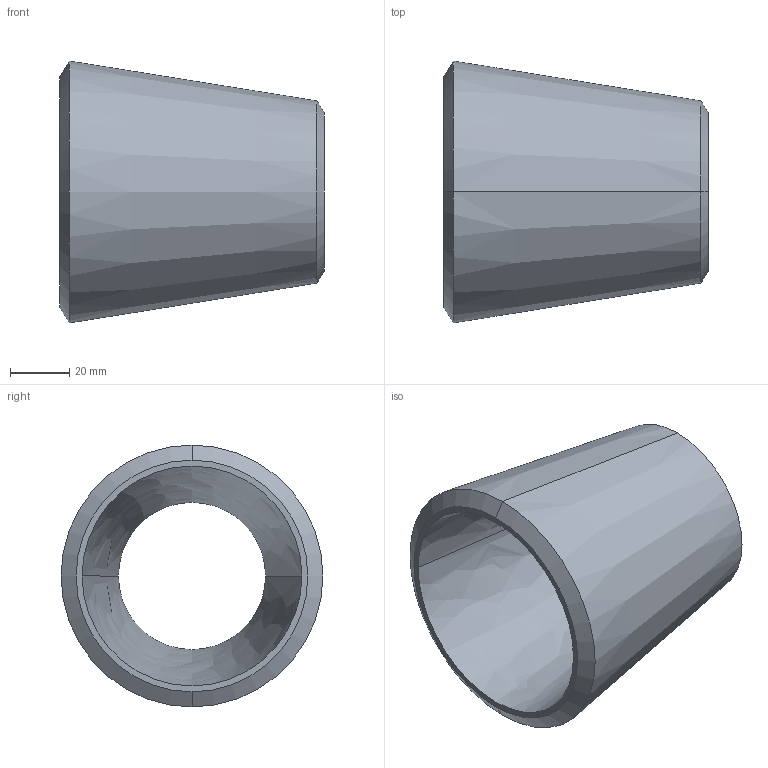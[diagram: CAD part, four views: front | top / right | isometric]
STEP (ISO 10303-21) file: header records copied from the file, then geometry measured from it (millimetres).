
FILE_DESCRIPTION (( 'STEP AP214' ), '1' );
FILE_NAME ('Concentric-reducer(2)_Sch80-80Ax50A.STEP', '2022-06-21T06:18:52', ( 'ASIS User' ), ( 'ASIS User' ), 'SwSTEP 2.0', 'SolidWorks 2022', '' );
FILE_SCHEMA (( 'AUTOMOTIVE_DESIGN' ));
Length unit declared in the file: millimetre
Products named in the file (1): Concentric-reducer(2)_Sch80-80Ax50A
Bounding box: 88.9 x 88.06 x 88.06 mm (x, y, z)
Volume: 123302.9 mm3; surface area: 40365.7 mm2
Topology: 1 solids, 1 shells, 10 faces, 20 edges, 12 vertices
Faces by surface type: cone 6, bspline 2, plane 2
Entity records: 440 total; most frequent: CARTESIAN_POINT 191, DIRECTION 48, ORIENTED_EDGE 40, AXIS2_PLACEMENT_3D 21, EDGE_CURVE 20, EDGE_LOOP 12, VERTEX_POINT 12, CIRCLE 12
